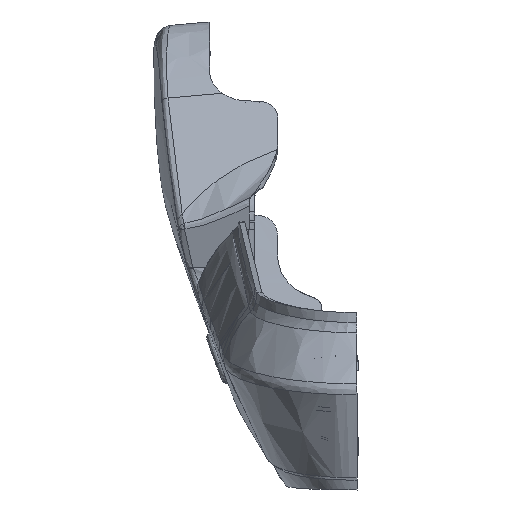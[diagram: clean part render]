
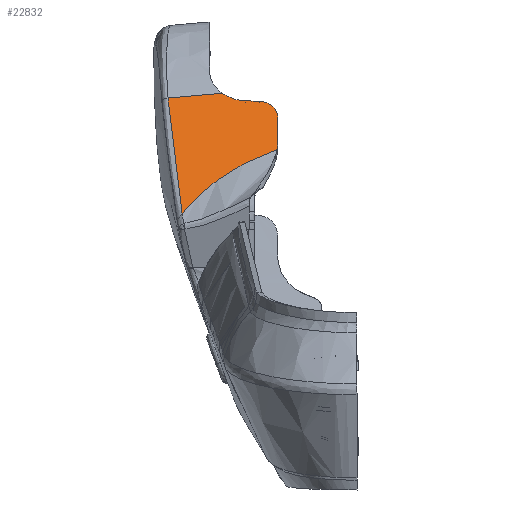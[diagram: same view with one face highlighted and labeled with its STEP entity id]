
A CAD part, left-side view. The second image highlights one B-rep face of the part: STEP entity #22832.
In plain terms, the highlighted planar face has unit normal (-0.824, 0.087, 0.56).
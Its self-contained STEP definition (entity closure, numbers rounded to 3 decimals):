
#22740=AXIS2_PLACEMENT_3D('Plane Axis2P3D',#22737,#22738,#22739) ;
#17670=CARTESIAN_POINT('Vertex',(-103.804,-483.336,599.75)) ;
#17674=CARTESIAN_POINT('Control Point',(-105.059,-510.436,602.121)) ;
#17675=CARTESIAN_POINT('Control Point',(-104.808,-505.016,601.646)) ;
#17676=CARTESIAN_POINT('Control Point',(-104.557,-499.596,601.172)) ;
#17677=CARTESIAN_POINT('Control Point',(-104.306,-494.176,600.698)) ;
#17678=CARTESIAN_POINT('Control Point',(-104.055,-488.756,600.224)) ;
#17679=CARTESIAN_POINT('Control Point',(-103.804,-483.336,599.75)) ;
#17680=CARTESIAN_POINT('Vertex',(-105.059,-510.436,602.121)) ;
#22737=CARTESIAN_POINT('Axis2P3D Location',(-72.846,-560.469,657.302)) ;
#22743=CARTESIAN_POINT('Control Point',(-126.984,-537.837,574.128)) ;
#22744=CARTESIAN_POINT('Control Point',(-126.636,-537.921,574.653)) ;
#22745=CARTESIAN_POINT('Control Point',(-126.281,-537.986,575.185)) ;
#22746=CARTESIAN_POINT('Control Point',(-125.919,-538.031,575.724)) ;
#22747=CARTESIAN_POINT('Control Point',(-125.553,-538.054,576.268)) ;
#22748=CARTESIAN_POINT('Control Point',(-125.181,-538.054,576.815)) ;
#22749=CARTESIAN_POINT('Vertex',(-126.984,-537.837,574.128)) ;
#22751=CARTESIAN_POINT('Vertex',(-125.181,-538.054,576.815)) ;
#22754=CARTESIAN_POINT('Line Origine',(-120.624,-538.054,583.519)) ;
#22758=CARTESIAN_POINT('Vertex',(-116.067,-538.054,590.223)) ;
#22762=CARTESIAN_POINT('Control Point',(-109.734,-528.92,598.12)) ;
#22763=CARTESIAN_POINT('Control Point',(-109.851,-529.848,598.092)) ;
#22764=CARTESIAN_POINT('Control Point',(-110.028,-530.764,597.974)) ;
#22765=CARTESIAN_POINT('Control Point',(-110.263,-531.652,597.767)) ;
#22766=CARTESIAN_POINT('Control Point',(-110.887,-533.488,597.134)) ;
#22767=CARTESIAN_POINT('Control Point',(-111.733,-535.056,596.134)) ;
#22768=CARTESIAN_POINT('Control Point',(-112.244,-535.803,595.498)) ;
#22769=CARTESIAN_POINT('Control Point',(-113.27,-536.969,594.17)) ;
#22770=CARTESIAN_POINT('Control Point',(-114.395,-537.688,592.627)) ;
#22771=CARTESIAN_POINT('Control Point',(-114.925,-537.917,591.882)) ;
#22772=CARTESIAN_POINT('Control Point',(-115.475,-538.043,591.093)) ;
#22773=CARTESIAN_POINT('Control Point',(-116.018,-538.053,590.295)) ;
#22774=CARTESIAN_POINT('Control Point',(-116.034,-538.053,590.271)) ;
#22775=CARTESIAN_POINT('Control Point',(-116.051,-538.054,590.247)) ;
#22776=CARTESIAN_POINT('Control Point',(-116.067,-538.054,590.223)) ;
#22777=CARTESIAN_POINT('Vertex',(-109.734,-528.92,598.12)) ;
#22780=CARTESIAN_POINT('Line Origine',(-109.305,-525.527,598.223)) ;
#22784=CARTESIAN_POINT('Vertex',(-108.876,-522.133,598.326)) ;
#22788=CARTESIAN_POINT('Control Point',(-108.876,-522.133,598.326)) ;
#22789=CARTESIAN_POINT('Control Point',(-108.628,-520.175,598.385)) ;
#22790=CARTESIAN_POINT('Control Point',(-108.246,-518.241,598.647)) ;
#22791=CARTESIAN_POINT('Control Point',(-107.734,-516.371,599.109)) ;
#22792=CARTESIAN_POINT('Control Point',(-106.897,-514.022,599.974)) ;
#22793=CARTESIAN_POINT('Control Point',(-105.879,-511.909,601.144)) ;
#22794=CARTESIAN_POINT('Control Point',(-105.615,-511.4,601.453)) ;
#22795=CARTESIAN_POINT('Control Point',(-105.342,-510.909,601.778)) ;
#22796=CARTESIAN_POINT('Control Point',(-105.059,-510.436,602.121)) ;
#22799=CARTESIAN_POINT('Control Point',(-143.893,-490.374,541.863)) ;
#22800=CARTESIAN_POINT('Control Point',(-138.876,-489.063,549.04)) ;
#22801=CARTESIAN_POINT('Control Point',(-133.742,-487.901,556.413)) ;
#22802=CARTESIAN_POINT('Control Point',(-128.546,-486.873,563.898)) ;
#22803=CARTESIAN_POINT('Control Point',(-120.481,-485.475,575.547)) ;
#22804=CARTESIAN_POINT('Control Point',(-112.346,-484.341,587.339)) ;
#22805=CARTESIAN_POINT('Control Point',(-109.502,-483.977,591.467)) ;
#22806=CARTESIAN_POINT('Control Point',(-106.654,-483.642,595.604)) ;
#22807=CARTESIAN_POINT('Control Point',(-103.804,-483.336,599.75)) ;
#22808=CARTESIAN_POINT('Vertex',(-143.893,-490.374,541.863)) ;
#22812=CARTESIAN_POINT('Control Point',(-126.984,-537.837,574.128)) ;
#22813=CARTESIAN_POINT('Control Point',(-128.018,-530.069,571.397)) ;
#22814=CARTESIAN_POINT('Control Point',(-129.46,-522.531,568.103)) ;
#22815=CARTESIAN_POINT('Control Point',(-131.363,-515.365,564.188)) ;
#22816=CARTESIAN_POINT('Control Point',(-134.836,-505.669,557.569)) ;
#22817=CARTESIAN_POINT('Control Point',(-139.223,-497.359,549.821)) ;
#22818=CARTESIAN_POINT('Control Point',(-140.701,-494.874,547.26)) ;
#22819=CARTESIAN_POINT('Control Point',(-142.261,-492.546,544.603)) ;
#22820=CARTESIAN_POINT('Control Point',(-143.893,-490.374,541.863)) ;
#22738=DIRECTION('Axis2P3D Direction',(0.824,-0.087,-0.56)) ;
#22739=DIRECTION('Axis2P3D XDirection',(-0.562,0.,-0.827)) ;
#22755=DIRECTION('Vector Direction',(0.562,0.,0.827)) ;
#22781=DIRECTION('Vector Direction',(0.125,0.992,0.03)) ;
#22756=VECTOR('Line Direction',#22755,1.) ;
#22782=VECTOR('Line Direction',#22781,1.) ;
#22823=ORIENTED_EDGE('',*,*,#22753,.T.) ;
#22824=ORIENTED_EDGE('',*,*,#22760,.T.) ;
#22825=ORIENTED_EDGE('',*,*,#22779,.F.) ;
#22826=ORIENTED_EDGE('',*,*,#22786,.T.) ;
#22827=ORIENTED_EDGE('',*,*,#22797,.T.) ;
#22828=ORIENTED_EDGE('',*,*,#17682,.T.) ;
#22829=ORIENTED_EDGE('',*,*,#22810,.F.) ;
#22830=ORIENTED_EDGE('',*,*,#22821,.F.) ;
#22832=ADVANCED_FACE('\X2\52065272\X0\.1',(#22831),#22741,.F.) ;
#17673=B_SPLINE_CURVE_WITH_KNOTS('',5,(#17674,#17675,#17676,#17677,#17678,#17679),.UNSPECIFIED.,.F.,.U.,(6,6),(27.714,54.908),.UNSPECIFIED.) ;
#22742=B_SPLINE_CURVE_WITH_KNOTS('',5,(#22743,#22744,#22745,#22746,#22747,#22748),.UNSPECIFIED.,.F.,.U.,(6,6),(0.,4.59),.UNSPECIFIED.) ;
#22761=B_SPLINE_CURVE_WITH_KNOTS('',5,(#22762,#22763,#22764,#22765,#22766,#22767,#22768,#22769,#22770,#22771,#22772,#22773,#22774,#22775,#22776),.UNSPECIFIED.,.F.,.U.,(6,3,3,3,6),(0.,6.751,14.672,21.429,21.638),.UNSPECIFIED.) ;
#22787=B_SPLINE_CURVE_WITH_KNOTS('',5,(#22788,#22789,#22790,#22791,#22792,#22793,#22794,#22795,#22796),.UNSPECIFIED.,.F.,.U.,(6,3,6),(0.,14.025,18.646),.UNSPECIFIED.) ;
#22798=B_SPLINE_CURVE_WITH_KNOTS('',5,(#22799,#22800,#22801,#22802,#22803,#22804,#22805,#22806,#22807),.UNSPECIFIED.,.F.,.U.,(6,3,6),(0.,65.21,100.15),.UNSPECIFIED.) ;
#22811=B_SPLINE_CURVE_WITH_KNOTS('',5,(#22812,#22813,#22814,#22815,#22816,#22817,#22818,#22819,#22820),.UNSPECIFIED.,.F.,.U.,(6,3,6),(0.,59.007,86.394),.UNSPECIFIED.) ;
#17682=EDGE_CURVE('',#17681,#17671,#17673,.T.) ;
#22753=EDGE_CURVE('',#22750,#22752,#22742,.T.) ;
#22760=EDGE_CURVE('',#22752,#22759,#22757,.T.) ;
#22779=EDGE_CURVE('',#22778,#22759,#22761,.T.) ;
#22786=EDGE_CURVE('',#22778,#22785,#22783,.T.) ;
#22797=EDGE_CURVE('',#22785,#17681,#22787,.T.) ;
#22810=EDGE_CURVE('',#22809,#17671,#22798,.T.) ;
#22821=EDGE_CURVE('',#22750,#22809,#22811,.T.) ;
#22822=EDGE_LOOP('',(#22823,#22824,#22825,#22826,#22827,#22828,#22829,#22830)) ;
#22831=FACE_OUTER_BOUND('',#22822,.T.) ;
#22757=LINE('Line',#22754,#22756) ;
#22783=LINE('Line',#22780,#22782) ;
#22741=PLANE('',#22740) ;
#17671=VERTEX_POINT('',#17670) ;
#17681=VERTEX_POINT('',#17680) ;
#22750=VERTEX_POINT('',#22749) ;
#22752=VERTEX_POINT('',#22751) ;
#22759=VERTEX_POINT('',#22758) ;
#22778=VERTEX_POINT('',#22777) ;
#22785=VERTEX_POINT('',#22784) ;
#22809=VERTEX_POINT('',#22808) ;
